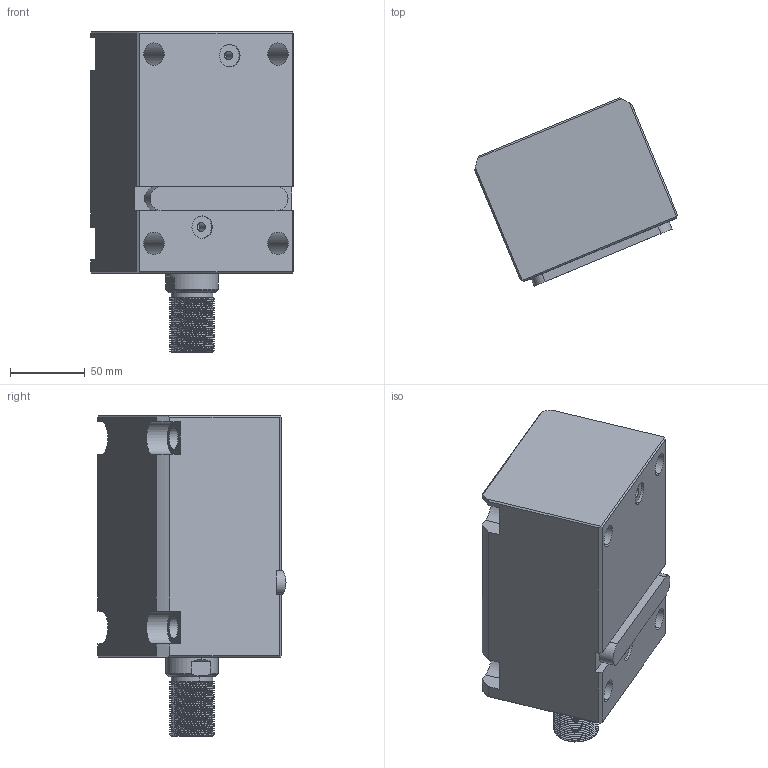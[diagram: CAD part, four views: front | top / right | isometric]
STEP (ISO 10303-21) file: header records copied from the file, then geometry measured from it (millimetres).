
FILE_DESCRIPTION (( 'STEP AP214' ), '1' );
FILE_NAME ('chtb-lam63x95w_asm.STEP', '2018-05-22T03:42:16', ( 'Windows' ), ( 'Microsoft' ), 'SwSTEP 2.0', 'SolidWorks 2015', '' );
FILE_SCHEMA (( 'AUTOMOTIVE_DESIGN' ));
Length unit declared in the file: millimetre
Products named in the file (5): CHTB-LAM63X95NBT; CHTB-LA63PJ; CHTB63X95WHSG; CHTB-63QG; chtb-lam63x95w_asm
Assembly tree (4 placements, depth 2):
  chtb-lam63x95w_asm
    CHTB-63QG
    CHTB63X95WHSG
    CHTB-LA63PJ
    CHTB-LAM63X95NBT
Bounding box: 135.77 x 126.06 x 215 mm (x, y, z)
Volume: 1399549.9 mm3; surface area: 187676.6 mm2
Topology: 4 solids, 4 shells, 236 faces, 696 edges, 473 vertices
Faces by surface type: cylinder 148, plane 58, bspline 15, cone 9, torus 6
Entity records: 23566 total; most frequent: CARTESIAN_POINT 17780, ORIENTED_EDGE 1384, DIRECTION 946, EDGE_CURVE 692, VERTEX_POINT 473, AXIS2_PLACEMENT_3D 344, EDGE_LOOP 259, LINE 258
